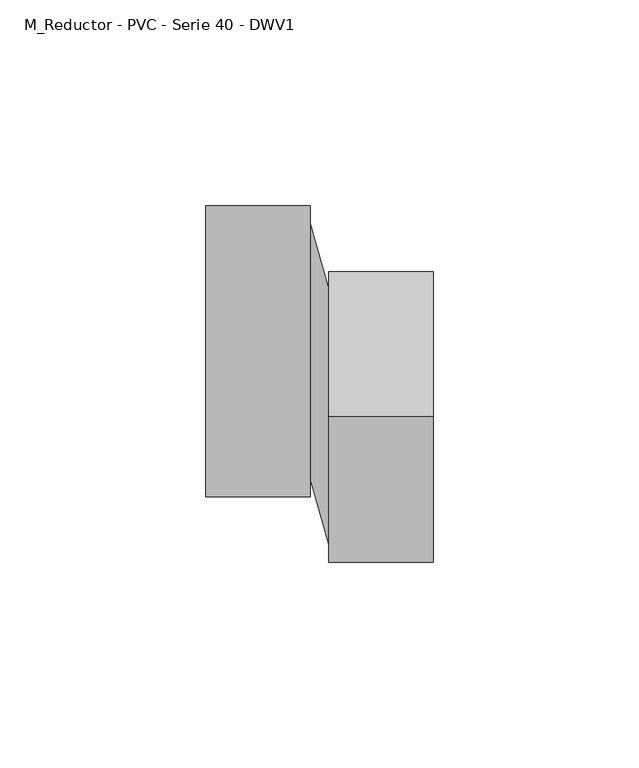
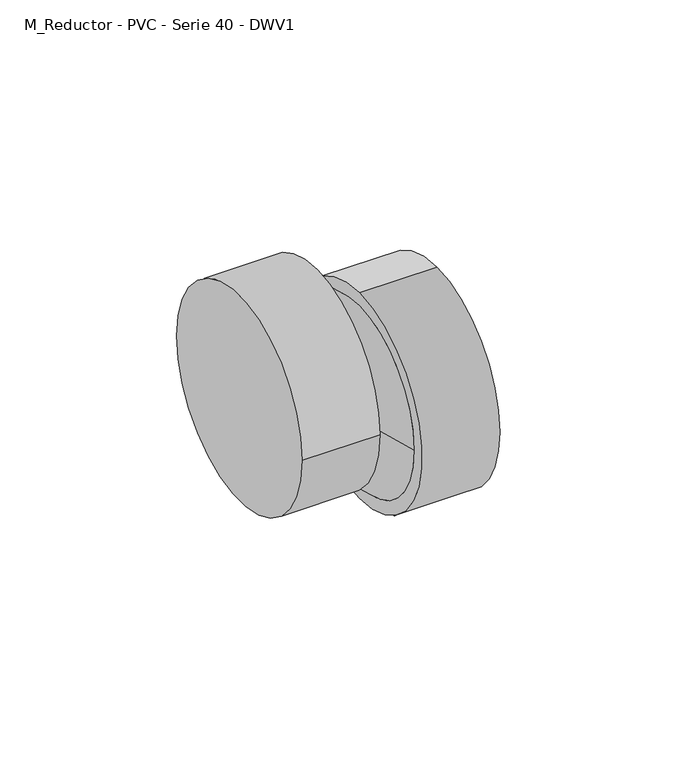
"""IFC4 building model written with IfcOpenShell, lengths in millimetres: pipe fitting geometry, M_Reductor - PVC - Serie 40 - DWV1 : Estándar 2."""

from ifc_helpers import new_model, si_unit, point, frame, origin, place, context, project, spatial, circle_curve, trimmed, source, transform, mapped, element, save
from ifc_brep_helpers import plane_surface, cylinder_surface, extruded_surface, advanced_brep


def m_reductor_pvc_serie_40_dwv1_ff30086d(model_context):
    return source(origin(), model_context, "Body", "AdvancedBrep", [
        advanced_brep(
        [(0.0, 35.4191094, 0.0), (0.0, -35.4191094, 0.0), (25.4, 35.4191094, 0.0), (25.4, -35.4191094, 0.0), (25.4, -30.9800625, 0.0), (25.4, 30.9800625, 0.0), (29.9600938, 15.089294, 0.0), (29.9600938, -46.870831, 0.0), (29.9600938, -15.8907685, 35.4191094), (29.9600938, -15.8907685, -35.4191094), (55.3600938, -15.8907685, 35.4191094), (55.3600938, -15.8907685, -35.4191094)],
        [
            (0, 1, circle_curve(frame((0.0, 0.0, 0.0), z_axis=(-1.0, 0.0, 0.0), x_axis=(0.0, -1.0, 0.0)), 35.4191094)),
            (1, 0, circle_curve(frame((0.0, 0.0, 0.0), z_axis=(-1.0, 0.0, 0.0), x_axis=(0.0, -1.0, 0.0)), 35.4191094)),
            (2, 3, circle_curve(frame((25.4, 0.0, 0.0), z_axis=(1.0, 0.0, 0.0), x_axis=(0.0, -1.0, 0.0)), 35.4191094)),
            (3, 2, circle_curve(frame((25.4, 0.0, 0.0), z_axis=(1.0, 0.0, 0.0), x_axis=(0.0, -1.0, 0.0)), 35.4191094)),
            (4, 5, circle_curve(frame((25.4, 0.0, 0.0), z_axis=(-1.0, 0.0, 0.0), x_axis=(0.0, -1.0, 0.0)), 30.9800625)),
            (5, 4, circle_curve(frame((25.4, 0.0, 0.0), z_axis=(-1.0, 0.0, 0.0), x_axis=(0.0, -1.0, 0.0)), 30.9800625)),
            (1, 3),
            (2, 0),
            (5, 6),
            (6, 7, circle_curve(frame((29.9600938, -15.8907685, 0.0), z_axis=(-1.0, 0.0, 0.0), x_axis=(0.0, -1.0, 0.0)), 30.9800625)),
            (7, 4),
            (7, 6, circle_curve(frame((29.9600938, -15.8907685, 0.0), z_axis=(-1.0, 0.0, 0.0), x_axis=(0.0, -1.0, 0.0)), 30.9800625)),
            (8, 9, circle_curve(frame((29.9600938, -15.8907685, 0.0), z_axis=(-1.0, 0.0, 0.0), x_axis=(0.0, 0.0, -1.0)), 35.4191094)),
            (9, 8, circle_curve(frame((29.9600938, -15.8907685, 0.0), z_axis=(-1.0, 0.0, 0.0), x_axis=(0.0, 0.0, -1.0)), 35.4191094)),
            (10, 11, circle_curve(frame((55.3600938, -15.8907685, 0.0), z_axis=(1.0, 0.0, 0.0), x_axis=(0.0, 0.0, -1.0)), 35.4191094)),
            (11, 10, circle_curve(frame((55.3600938, -15.8907685, 0.0), z_axis=(1.0, 0.0, 0.0), x_axis=(0.0, 0.0, -1.0)), 35.4191094)),
            (9, 11),
            (10, 8),
        ],
        [
            plane_surface(frame((0.0, 0.0, 0.0), z_axis=(-1.0, 0.0, 0.0), x_axis=(0.0, 0.0, 1.0))),
            plane_surface(frame((25.4, 0.0, 0.0), z_axis=(1.0, 0.0, 0.0), x_axis=(0.0, 0.0, 1.0))),
            cylinder_surface(frame((0.0, 0.0, 0.0), z_axis=(-1.0, 0.0, 0.0), x_axis=(0.0, -1.0, 0.0)), 35.4191094),
            extruded_surface(trimmed(circle_curve(frame((29.9600938, -15.8907685, 0.0), z_axis=(-1.0, 0.0, 0.0), x_axis=(0.0, -1.0, 0.0)), 30.9800625), [point((29.9600938, 15.089294, 0.0))], [point((29.9600938, -46.870831, 0.0))], True, "CARTESIAN"), (-4.560093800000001, 15.8907685, 0.0), 16.532119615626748),
            extruded_surface(trimmed(circle_curve(frame((29.9600938, -15.8907685, 0.0), z_axis=(-1.0, 0.0, 0.0), x_axis=(0.0, -1.0, 0.0)), 30.9800625), [point((29.9600938, -46.870831, 0.0))], [point((29.9600938, 15.089294, 0.0))], True, "CARTESIAN"), (-4.560093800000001, 15.8907685, 0.0), 16.532119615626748),
            plane_surface(frame((29.9600938, -15.8907685, 0.0), z_axis=(-1.0, 0.0, 0.0), x_axis=(0.0, -1.0, 0.0))),
            plane_surface(frame((55.3600938, -15.8907685, 0.0), z_axis=(1.0, 0.0, 0.0), x_axis=(0.0, -1.0, 0.0))),
            cylinder_surface(frame((29.9600938, -15.8907685, 0.0), z_axis=(-1.0, 0.0, 0.0), x_axis=(0.0, 0.0, -1.0)), 35.4191094),
        ],
        [
            (0, [[1, 2]]),
            (1, [[3, 4], [5, 6]]),
            (2, [[7, -3, 8, -2]]),
            (2, [[-8, -4, -7, -1]]),
            (3, [[-6, 9, 10, 11]]),
            (4, [[12, -9, -5, -11]]),
            (5, [[13, 14], [-12, -10]]),
            (6, [[15, 16]]),
            (7, [[17, -15, 18, -14]]),
            (7, [[-18, -16, -17, -13]]),
        ],
    ),
    ])


if __name__ == "__main__":
    model = new_model("IFC4")
    model_context = context("Model", 3, world=origin())
    ifc_project = project(units=[si_unit("LENGTHUNIT", "METRE", prefix="MILLI")], contexts=[model_context])
    site = spatial("IfcSite", under=ifc_project)
    building = spatial("IfcBuilding", under=site)
    placement = place(None, origin())
    m_reductor_pvc_serie_40_dwv1_shape = m_reductor_pvc_serie_40_dwv1_ff30086d(model_context)
    element("IfcPipeFitting", 1, ObjectType="M_Reductor - PVC - Serie 40 - DWV1 : Estándar 2", at=placement, inside=building, context=model_context, shape_type="MappedRepresentation", body=[
        mapped(m_reductor_pvc_serie_40_dwv1_shape, transform((0.0, 0.0, 0.0), x_axis=(1.0, 0.0, 0.0), y_axis=(0.0, 1.0, 0.0), z_axis=(0.0, 0.0, 1.0))),
    ])
    save(model, "model.ifc")
